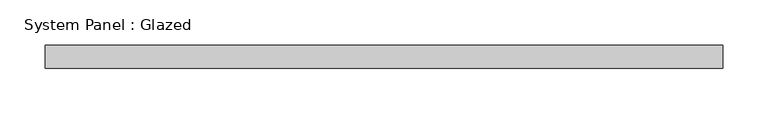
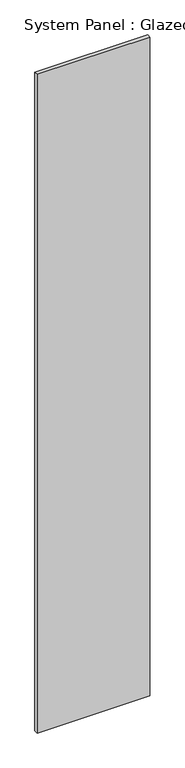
"""IFC4 building model written with IfcOpenShell, lengths in millimetres: plate geometry, System Panel : Glazed."""

from ifc_helpers import new_model, si_unit, origin, origin_with_axes, place, context, project, spatial, polyline, outline, extrude, source, transform, mapped, element, save


def system_panel_glazed_ccbaed92(model_context):
    return source(origin(), model_context, "Body", "SweptSolid", [
        extrude(outline(polyline([(375.1494819, 19.05), (-375.1494819, 19.05), (-375.1494819, 44.45), (375.1494819, 44.45), (375.1494819, 19.05)])), origin_with_axes(), (0.0, 0.0, 1.0), 4629.15),
    ])


if __name__ == "__main__":
    model = new_model("IFC4")
    model_context = context("Model", 3, world=origin())
    ifc_project = project(units=[si_unit("LENGTHUNIT", "METRE", prefix="MILLI")], contexts=[model_context])
    site = spatial("IfcSite", under=ifc_project)
    building = spatial("IfcBuilding", under=site)
    placement = place(None, origin())
    system_panel_glazed_shape = system_panel_glazed_ccbaed92(model_context)
    element("IfcPlate", 1, ObjectType="System Panel : Glazed", at=placement, inside=building, context=model_context, shape_type="MappedRepresentation", body=[
        mapped(system_panel_glazed_shape, transform((0.0, 0.0, 0.0), x_axis=(1.0, 0.0, 0.0), y_axis=(0.0, 1.0, 0.0), z_axis=(0.0, 0.0, 1.0))),
    ])
    save(model, "model.ifc")
